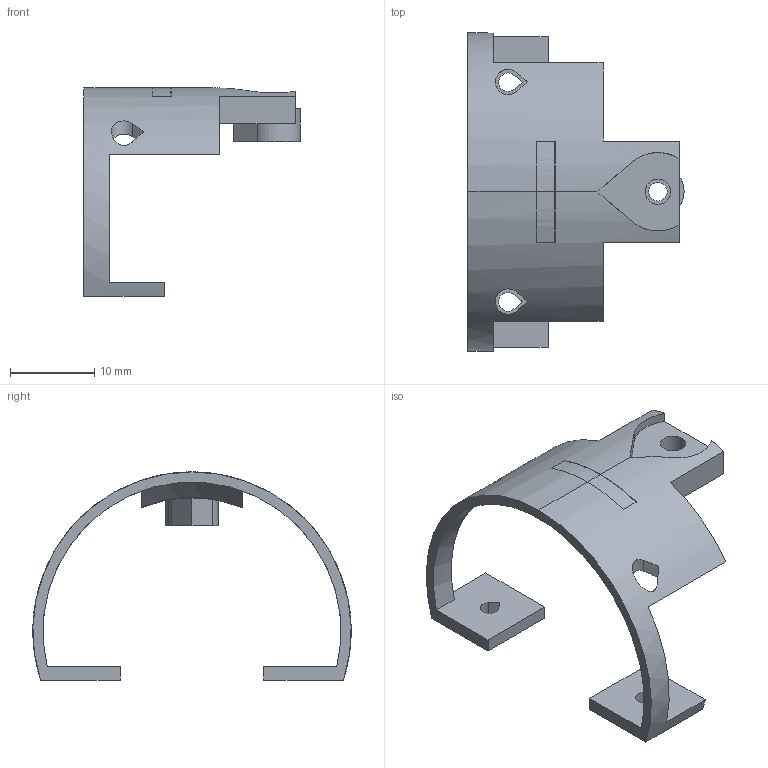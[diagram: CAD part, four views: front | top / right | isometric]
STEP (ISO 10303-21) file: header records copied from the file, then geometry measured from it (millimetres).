
FILE_DESCRIPTION(('SkyG Speed 90B - revision C6B-20 - 2026-10-16','HL1-hatch-lip-front'),'2;1');
FILE_NAME('HL1-hatch-lip-front_C6B-20','2026-10-16T01:43:26',('Author'),( 'Open CASCADE'),'Open CASCADE STEP processor 7.9','Open CASCADE 7.9' ,'Unknown');
FILE_SCHEMA(('AUTOMOTIVE_DESIGN { 1 0 10303 214 1 1 1 1 }'));
Length unit declared in the file: millimetre
Products named in the file (4): HL1-hatch-lip-front C6B-20; Open CASCADE STEP translator 7.9 25.1; Open CASCADE STEP translator 7.9 25.1.1; Open CASCADE STEP translator 7.9 25.1.2
Assembly tree (3 placements, depth 3):
  HL1-hatch-lip-front C6B-20
    Open CASCADE STEP translator 7.9 25.1
      Open CASCADE STEP translator 7.9 25.1.1
      Open CASCADE STEP translator 7.9 25.1.2
Bounding box: 25.6 x 37.68 x 24.65 mm (x, y, z)
Volume: 1495 mm3; surface area: 2434.9 mm2
Topology: 1 solids, 2 shells, 53 faces, 160 edges, 109 vertices
Faces by surface type: plane 35, cylinder 17, cone 1
Full cylindrical faces by diameter (mm): 2.2 x1, 3 x1
Entity records: 4921 total; most frequent: CARTESIAN_POINT 1825, DIRECTION 545, ORIENTED_EDGE 312, PCURVE 312, DEFINITIONAL_REPRESENTATION 312, LINE 276, VECTOR 276, EDGE_CURVE 160
